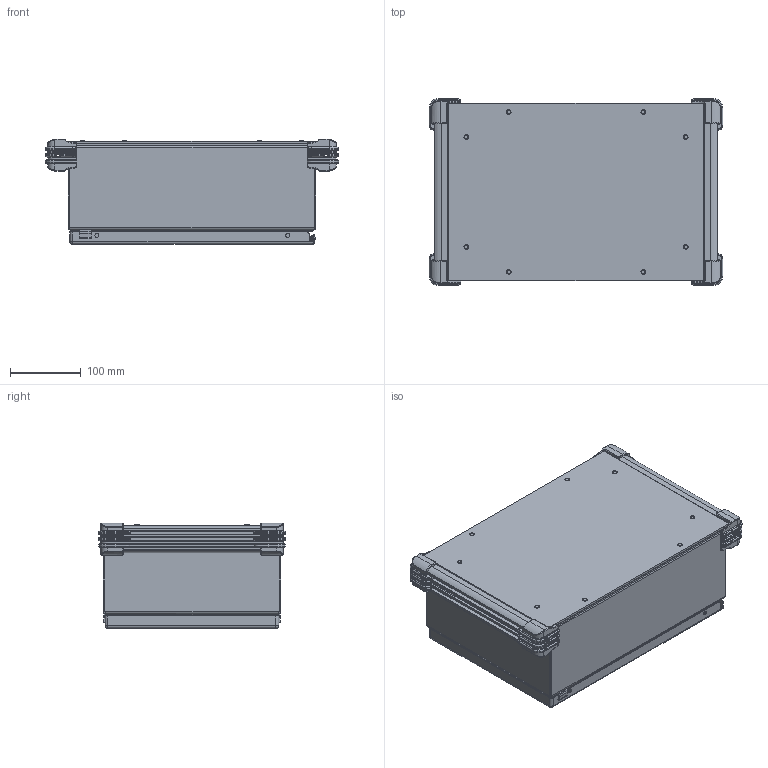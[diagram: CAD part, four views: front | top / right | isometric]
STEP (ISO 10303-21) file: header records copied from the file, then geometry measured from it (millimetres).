
FILE_DESCRIPTION (( 'STEP AP203' ), '1' );
FILE_NAME ('cp253512.STEP', '2019-04-01T14:41:57', ( '' ), ( '' ), 'SwSTEP 2.0', 'SolidWorks 2016', '' );
FILE_SCHEMA (( 'CONFIG_CONTROL_DESIGN' ));
Length unit declared in the file: inch
Products named in the file (38): 89061410; 99401225; 87932266; 87938556_87926013; 89061087; 89126300; 64202001; 87931362_87931362; 87541995; 87789726_ASSEMBLED; 87929507; 87543027; 89131630; 87938485; 87541671_87541671; 89061111; cp253512; 87792576; 87932903; 64138001; 99416066; 87792578; 87789229_default; 87929767; 64210001; 87938509_assy; 87927840_87927840; 89076399; 64203001; 87789150; 99401225_Config-Drawing; 64101001; 87921906_After Weld; 87929769_Installed on Pin; 87938533_fip; 64201001; 87789205; 89076193
Assembly tree (69 placements, depth 4):
  cp253512
    89061111
      87789229_default
      99401225_Config-Drawing  x3
    87938509_assy
      87938533_fip
        87938485
        87931362_87931362  x2
        99401225
        87938556_87926013
        87921906_After Weld  x4
      64101001
        64201001
        87932266
        87541995
        64202001
        64210001
        64203001
        87927840_87927840
      87932903  x2
      64138001  x2
    89061087
      87789205
      87541671_87541671  x8
    89126300  x2
    87789150  x4
    87543027  x2
    89076399  x2
      89076193
      89131630
    87789726_ASSEMBLED
      89061410  x2
    87792578  x4
    87792576  x4
    99416066  x4
    87929507  x2
      87929767
      87929769_Installed on Pin
Bounding box: 414.3 x 263.88 x 149.3 mm (x, y, z)
Volume: 1300902 mm3; surface area: 1079769.8 mm2
Topology: 63 solids, 63 shells, 3906 faces, 9893 edges, 6094 vertices
Faces by surface type: plane 1543, cylinder 1297, bspline 424, torus 346, cone 244, sphere 52
Entity records: 65052 total; most frequent: CARTESIAN_POINT 19124, ORIENTED_EDGE 8834, DIRECTION 8210, EDGE_CURVE 4417, AXIS2_PLACEMENT_3D 3004, VERTEX_POINT 2742, LINE 2202, VECTOR 2202
